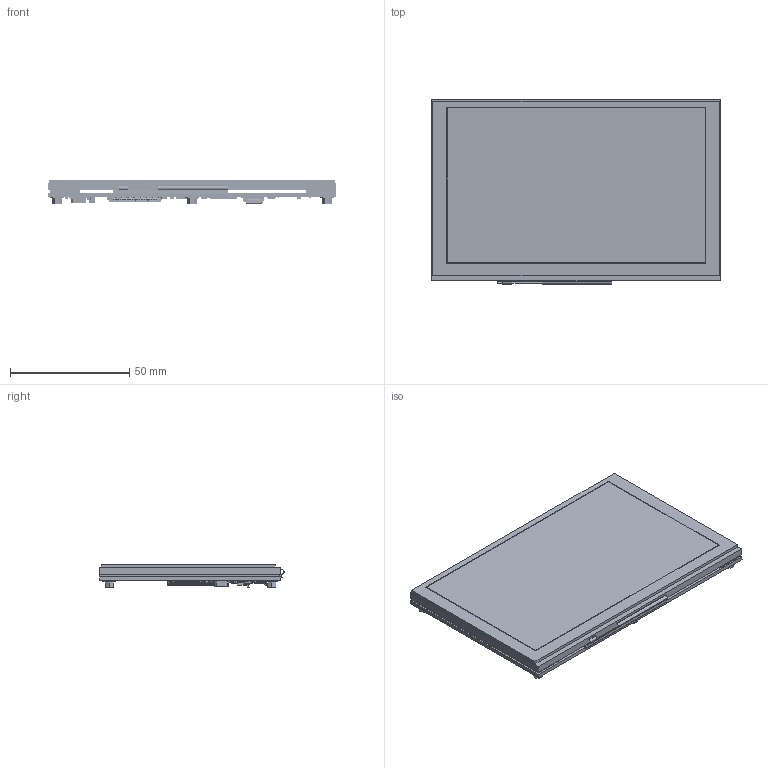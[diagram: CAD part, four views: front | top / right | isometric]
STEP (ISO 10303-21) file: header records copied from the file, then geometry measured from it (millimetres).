
FILE_DESCRIPTION (( 'STEP AP214' ), '1' );
FILE_NAME ('CFA800480E3-050SR.STEP', '2023-03-16T21:57:06', ( '' ), ( '' ), 'SwSTEP 2.0', 'SolidWorks 2021', '' );
FILE_SCHEMA (( 'AUTOMOTIVE_DESIGN' ));
Length unit declared in the file: millimetre
Products named in the file (45): 16110_CAM_00191_SCH-1; 03064_CAM_03064_SCH-1; ERJ2R_Family_CAM_CMP-009-00187-1; FP-CL165-IPC_B_CMP-001-00090-2; 15032_CAM_CMP-004-000012-1; INDP6060X25N_CMP-007-000033-1; clear_1mm_tape; cfa-10100_BOARD; FP-SOT23-IPC_B_CMP-007-000034-2; 00289_CAM_CMP-004-000001-1; ERJ2R_Family_CAM_CMP-005-000027-2; 01655_CAM_01655_SCH-1; QFN50P900X900X80_HS-65N_CMP-007-000016-3; ERJ2R_Family_CAM_CMP-009-00179-1; 03064_CAM_03063_SCH-1; cfa-10100; CS050Z40G-B0; SOD123-3.65x1.55_CMP-004-00041-1; CS050Y30T-B0_CAM_CS050Y30T-B0-2; ERJ2R_Family_CAM_CMP-005-000029-3; FP-DO-214AC-MFG_CMP-004-00040-1; CFPN_01712; ERJ2R_Family_CAM_CMP-005-000028-2; CS050Z10G-A0; CFAF800480E1-050SR drawing; 00133_CAM_00133_SCH-5; FP-SOT26_SC74R-MFG_CMP-001-0018-1; ERJ2R_Family_CAM_03068_SCH-1; ERJ2R_Family_CAM_CMP-009-00179-2; SON127P600X80_HS-9N_CMP-002-00081-2; FP-CL696-IPC_B_CMP-001-00089-1; CL05_Footprint_CMP-007-000018-1; FP-CL313-IPC_B_CMP-001-00085-3; ERJ2R_Family_CAM_CMP-009-00185-2; FA-20H_12.0000MD30Z-K3_CMP-002-00080-3; 01655_CAM_CMP-004-000010-1; 00289_CAM_00289_SCH-1; CFA800480E3-050SR; ERJ2R_Family_CAM_CMP-009-00186-2; RESC1608X55X30ML15T15_CMP-007-000035-2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
Assembly tree (90 placements, depth 3):
  CFA800480E3-050SR
    cfa-10100
      cfa-10100_BOARD
      FP-CL313-IPC_B_CMP-001-00085-3
      CL05_Footprint_CMP-007-000018-1
      01655_CAM_CMP-004-000010-1  x4
      FA-20H_12.0000MD30Z-K3_CMP-002-00080-3
      SON127P600X80_HS-9N_CMP-002-00081-2
      FP-SOT23-IPC_B_CMP-007-000034-2
      FP-SOT26_SC74R-MFG_CMP-001-0018-1
      QFN50P500X500X85_HS-33N_CMP-007-000032-3
      ERJ2R_Family_CAM_CMP-009-00179-1  x6
      ERJ2R_Family_CAM_CMP-005-000027-2  x5
      ERJ2R_Family_CAM_CMP-009-00183-1
      ERJ2R_Family_CAM_03071_SCH-1
      16110_CAM_00191_SCH-1
      ERJ2R_Family_CAM_03068_SCH-1
      03064_CAM_03063_SCH-1  x2
      03064_CAM_03064_SCH-1
      ERJ2R_Family_CAM_CMP-005-000028-2  x2
      RESC1608X55X30ML15T15_CMP-007-000035-2
      ERJ2R_Family_CAM_CMP-009-00187-1
      ERJ2R_Family_CAM_CMP-009-00186-2
      ERJ2R_Family_CAM_CMP-009-00185-2
      ERJ2R_Family_CAM_CMP-009-00184-2
      ERJ2R_Family_CAM_CMP-005-000029-3  x2
      QFN50P900X900X80_HS-65N_CMP-007-000016-3
      INDP6060X25N_CMP-007-000033-1
      FP-DO-214AC-MFG_CMP-004-00040-1
      00289_CAM_00289_SCH-1  x11
      00133_CAM_00133_SCH-5  x12
      00289_CAM_CMP-004-000001-1
      FP-CL696-IPC_B_CMP-001-00089-1  x2
      00133_CAM_CMP-004-000007-1
      FP-CL165-IPC_B_CMP-001-00090-2  x3
      15032_CAM_CMP-004-000012-1  x2
      01655_CAM_01655_SCH-1
      ERJ2R_Family_CAM_CMP-009-00179-2
      SOD123-3.65x1.55_CMP-004-00041-1
      CS050Y30T-B0_CAM_CS050Y30T-B0-2
    clear_1mm_tape  x2
    CFPN_01712  x6
    CS050Z40G-B0
    CS050Z10G-A0
    CFAF800480E1-050SR drawing
Bounding box: 120.7 x 77.14 x 9.95 mm (x, y, z)
Topology: 413 solids, 600 shells, 16102 faces, 45049 edges, 29329 vertices
Faces by surface type: plane 10499, cylinder 4372, bspline 988, sphere 223, cone 12, torus 8
Full cylindrical faces by diameter (mm): 0.2 x24, 0.8 x2, 0.9 x1
Entity records: 582510 total; most frequent: CARTESIAN_POINT 118167, ORIENTED_EDGE 84123, DIRECTION 66687, EDGE_CURVE 42069, LINE 29673, VECTOR 29673, VERTEX_POINT 27384, AXIS2_PLACEMENT_3D 18507
